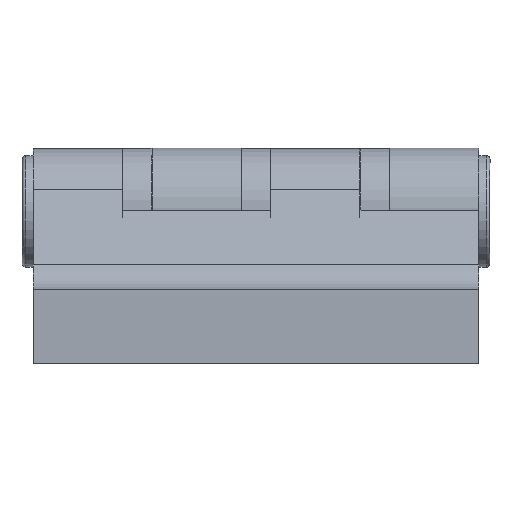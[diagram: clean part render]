
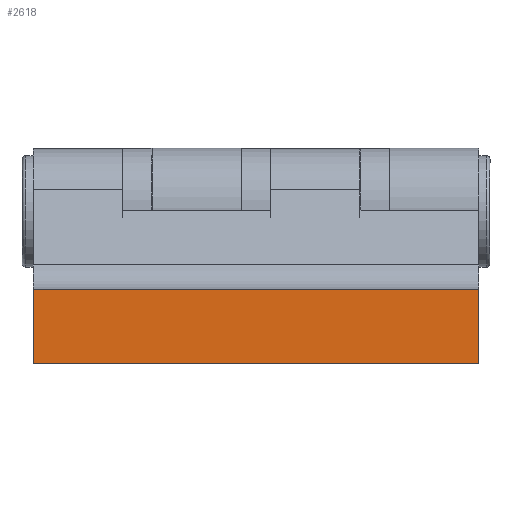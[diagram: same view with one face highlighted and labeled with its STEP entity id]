
A CAD part, left-side view. The second image highlights one B-rep face of the part: STEP entity #2618.
In plain terms, the highlighted planar face has unit normal (-1, 0, 0).
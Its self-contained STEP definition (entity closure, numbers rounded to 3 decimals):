
#182=PLANE('',#2862);
#321=FACE_OUTER_BOUND('',#489,.T.);
#489=EDGE_LOOP('',(#2402,#2403,#2404,#2405));
#629=LINE('',#4060,#882);
#753=LINE('',#4355,#1006);
#767=LINE('',#4384,#1020);
#768=LINE('',#4386,#1021);
#882=VECTOR('',#3287,10.);
#1006=VECTOR('',#3565,10.);
#1020=VECTOR('',#3601,60.);
#1021=VECTOR('',#3604,60.);
#1255=VERTEX_POINT('',#4057);
#1256=VERTEX_POINT('',#4059);
#1349=VERTEX_POINT('',#4352);
#1350=VERTEX_POINT('',#4354);
#1550=EDGE_CURVE('',#1255,#1256,#629,.T.);
#1696=EDGE_CURVE('',#1349,#1350,#753,.T.);
#1710=EDGE_CURVE('',#1255,#1350,#767,.T.);
#1711=EDGE_CURVE('',#1256,#1349,#768,.T.);
#2402=ORIENTED_EDGE('',*,*,#1550,.F.);
#2403=ORIENTED_EDGE('',*,*,#1710,.T.);
#2404=ORIENTED_EDGE('',*,*,#1696,.F.);
#2405=ORIENTED_EDGE('',*,*,#1711,.F.);
#2618=ADVANCED_FACE('',(#321),#182,.T.);
#2862=AXIS2_PLACEMENT_3D('',#4385,#3602,#3603);
#3287=DIRECTION('',(0.,0.,-1.));
#3565=DIRECTION('',(0.,0.,1.));
#3601=DIRECTION('',(0.,1.,0.));
#3602=DIRECTION('center_axis',(-1.,0.,0.));
#3603=DIRECTION('ref_axis',(0.,0.,1.));
#3604=DIRECTION('',(0.,1.,0.));
#4057=CARTESIAN_POINT('',(0.,0.,10.));
#4059=CARTESIAN_POINT('',(0.,0.,0.));
#4060=CARTESIAN_POINT('',(0.,0.,10.));
#4352=CARTESIAN_POINT('',(0.,60.,0.));
#4354=CARTESIAN_POINT('',(0.,60.,10.));
#4355=CARTESIAN_POINT('',(0.,60.,10.));
#4384=CARTESIAN_POINT('',(0.,0.,10.));
#4385=CARTESIAN_POINT('Origin',(0.,0.,0.));
#4386=CARTESIAN_POINT('',(0.,0.,0.));
